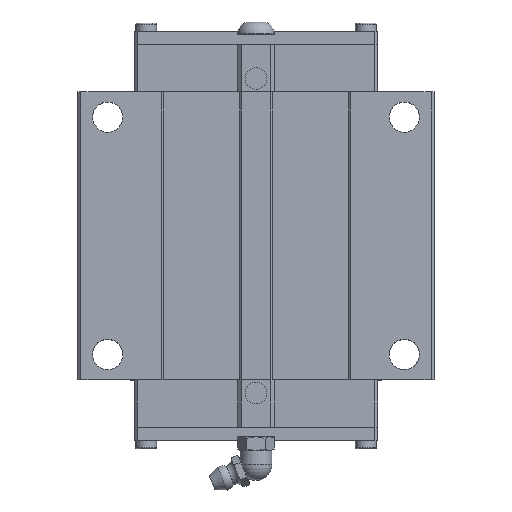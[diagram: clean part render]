
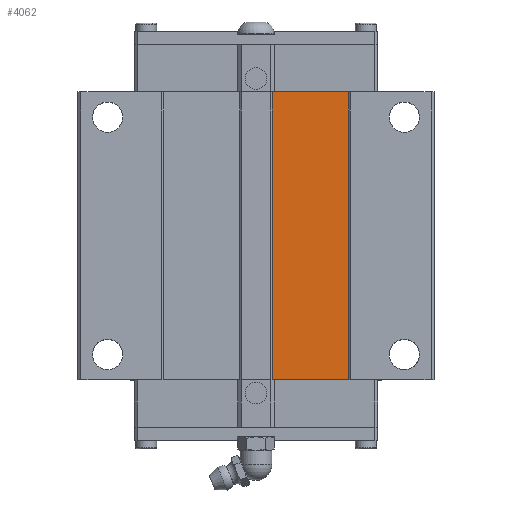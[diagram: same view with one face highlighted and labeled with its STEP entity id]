
A CAD part, top view. The second image highlights one B-rep face of the part: STEP entity #4062.
In plain terms, the highlighted planar face has unit normal (0, 0, 1).
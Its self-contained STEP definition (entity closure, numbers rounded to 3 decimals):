
#1796=EDGE_CURVE('',#4002,#2824,#5105,.T.);
#2692=VERTEX_POINT('',#6086);
#2824=VERTEX_POINT('',#6235);
#2994=EDGE_CURVE('',#4002,#2692,#6421,.T.);
#3248=EDGE_CURVE('',#4408,#2692,#6702,.T.);
#3542=EDGE_CURVE('',#2824,#4408,#7025,.T.);
#4002=VERTEX_POINT('',#7539);
#4062=ADVANCED_FACE('',(#7601),#7602,.F.);
#4408=VERTEX_POINT('',#7988);
#5105=LINE('',#8841,#8842);
#6086=CARTESIAN_POINT('',(5.5,20.5,59.5));
#6235=CARTESIAN_POINT('',(31.25,117.5,59.5));
#6421=LINE('',#10850,#10851);
#6702=LINE('',#11246,#11247);
#7025=LINE('',#11743,#11744);
#7539=CARTESIAN_POINT('',(5.5,117.5,59.5));
#7601=FACE_OUTER_BOUND('',#12595,.T.);
#7602=PLANE('',#12596);
#7988=CARTESIAN_POINT('',(31.25,20.5,59.5));
#8841=CARTESIAN_POINT('',(15.625,117.5,59.5));
#8842=VECTOR('',#14178,1.0);
#10850=CARTESIAN_POINT('',(5.5,141.75,59.5));
#10851=VECTOR('',#15522,1.0);
#11246=CARTESIAN_POINT('',(15.625,20.5,59.5));
#11247=VECTOR('',#15824,1.0);
#11743=CARTESIAN_POINT('',(31.25,166.0,59.5));
#11744=VECTOR('',#16182,1.0);
#12595=EDGE_LOOP('',(#16873,#16874,#16875,#16876));
#12596=AXIS2_PLACEMENT_3D('',#16877,#16878,#16879);
#14178=DIRECTION('',(1.0,0.0,0.0));
#15522=DIRECTION('',(0.0,-1.0,0.0));
#15824=DIRECTION('',(-1.0,-0.0,-0.0));
#16182=DIRECTION('',(0.0,-1.0,0.0));
#16873=ORIENTED_EDGE('',*,*,#2994,.T.);
#16874=ORIENTED_EDGE('',*,*,#3248,.F.);
#16875=ORIENTED_EDGE('',*,*,#3542,.F.);
#16876=ORIENTED_EDGE('',*,*,#1796,.F.);
#16877=CARTESIAN_POINT('',(31.25,166.0,59.5));
#16878=DIRECTION('',(0.0,0.0,-1.0));
#16879=DIRECTION('',(1.0,0.0,0.0));
